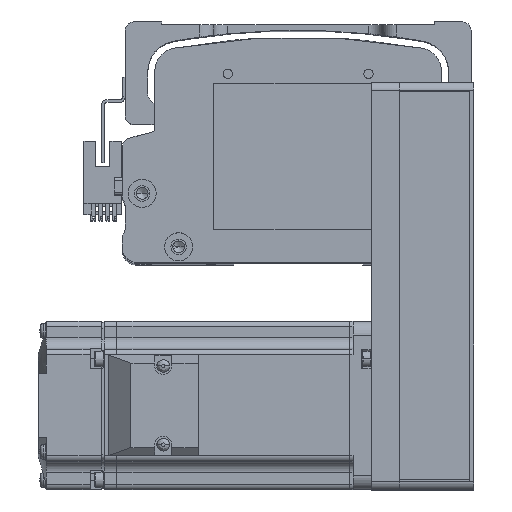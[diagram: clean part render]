
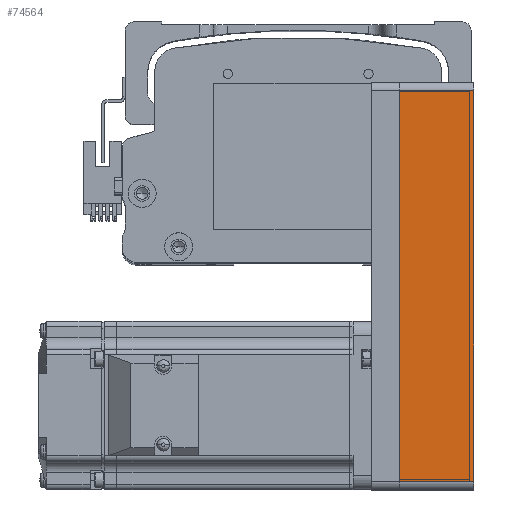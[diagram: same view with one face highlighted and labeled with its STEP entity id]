
A CAD part, top view. The second image highlights one B-rep face of the part: STEP entity #74564.
In plain terms, the highlighted planar face has unit normal (0, 0, 1) as drawn and (0, -1, 0) by its records, which use the part's own axes.
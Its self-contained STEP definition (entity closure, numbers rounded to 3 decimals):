
#2351 = EDGE_LOOP ( 'NONE', ( #6456, #79546, #12637, #47251 ) ) ;
#3595 = VERTEX_POINT ( 'NONE', #9680 ) ;
#6456 = ORIENTED_EDGE ( 'NONE', *, *, #60136, .T. ) ;
#9045 = VECTOR ( 'NONE', #63864, 1000. ) ;
#9680 = CARTESIAN_POINT ( 'NONE',  ( 69.5, -30., 0. ) ) ;
#12637 = ORIENTED_EDGE ( 'NONE', *, *, #59551, .F. ) ;
#14824 = CARTESIAN_POINT ( 'NONE',  ( -69.5, -30., 26.5 ) ) ;
#16482 = CARTESIAN_POINT ( 'NONE',  ( 72.5, -30., 0. ) ) ;
#19084 = VERTEX_POINT ( 'NONE', #19503 ) ;
#19503 = CARTESIAN_POINT ( 'NONE',  ( -69.5, -30., 0. ) ) ;
#22612 = DIRECTION ( 'NONE',  ( 1., 0., 0. ) ) ;
#22909 = AXIS2_PLACEMENT_3D ( 'NONE', #71596, #34879, #77785 ) ;
#26249 = CARTESIAN_POINT ( 'NONE',  ( 72.5, -30., 26.5 ) ) ;
#32407 = DIRECTION ( 'NONE',  ( 1., 0., 0. ) ) ;
#34879 = DIRECTION ( 'NONE',  ( 0., 1., 0. ) ) ;
#37314 = LINE ( 'NONE', #72971, #66098 ) ;
#41748 = VECTOR ( 'NONE', #32407, 1000. ) ;
#41879 = EDGE_CURVE ( 'NONE', #52247, #19084, #76221, .T. ) ;
#45826 = VECTOR ( 'NONE', #22612, 1000. ) ;
#47251 = ORIENTED_EDGE ( 'NONE', *, *, #41879, .T. ) ;
#49641 = EDGE_CURVE ( 'NONE', #3595, #54572, #37314, .T. ) ;
#52247 = VERTEX_POINT ( 'NONE', #57964 ) ;
#54572 = VERTEX_POINT ( 'NONE', #58560 ) ;
#57964 = CARTESIAN_POINT ( 'NONE',  ( -69.5, -30., 26.5 ) ) ;
#58560 = CARTESIAN_POINT ( 'NONE',  ( 69.5, -30., 26.5 ) ) ;
#59551 = EDGE_CURVE ( 'NONE', #52247, #54572, #72447, .T. ) ;
#60136 = EDGE_CURVE ( 'NONE', #19084, #3595, #62116, .T. ) ;
#62116 = LINE ( 'NONE', #16482, #45826 ) ;
#63864 = DIRECTION ( 'NONE',  ( 0., 0., -1. ) ) ;
#65148 = PLANE ( 'NONE',  #22909 ) ;
#66098 = VECTOR ( 'NONE', #66264, 1000. ) ;
#66264 = DIRECTION ( 'NONE',  ( 0., 0., 1. ) ) ;
#71596 = CARTESIAN_POINT ( 'NONE',  ( 72.5, -30., 26.5 ) ) ;
#72447 = LINE ( 'NONE', #26249, #41748 ) ;
#72971 = CARTESIAN_POINT ( 'NONE',  ( 69.5, -30., 26.5 ) ) ;
#74564 = ADVANCED_FACE ( 'NONE', ( #75088 ), #65148, .F. ) ;
#75088 = FACE_OUTER_BOUND ( 'NONE', #2351, .T. ) ;
#76221 = LINE ( 'NONE', #14824, #9045 ) ;
#77785 = DIRECTION ( 'NONE',  ( -1., 0., 0. ) ) ;
#79546 = ORIENTED_EDGE ( 'NONE', *, *, #49641, .T. ) ;
